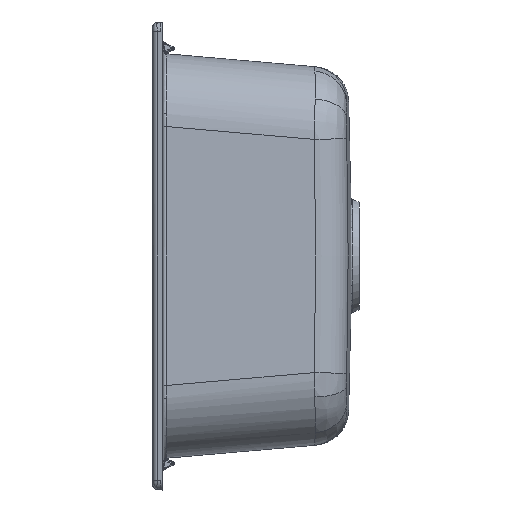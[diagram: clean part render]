
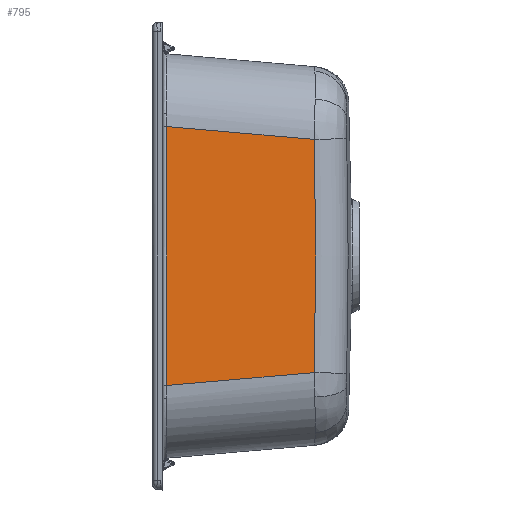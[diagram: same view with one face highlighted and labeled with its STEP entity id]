
A CAD part, left-side view. The second image highlights one B-rep face of the part: STEP entity #795.
In plain terms, the highlighted planar face has unit normal (-0.996, -0.087, 0).
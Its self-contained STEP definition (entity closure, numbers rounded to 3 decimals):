
#795=ADVANCED_FACE('',(#2370),#2371,.T.);
#2370=FACE_OUTER_BOUND('',#15433,.T.);
#2371=PLANE('',#15434);
#15433=EDGE_LOOP('',(#21802,#21803,#21804,#21805,#21806));
#15434=AXIS2_PLACEMENT_3D('',#21807,#21808,#21809);
#21802=ORIENTED_EDGE('',*,*,#24258,.F.);
#21803=ORIENTED_EDGE('',*,*,#24253,.T.);
#21804=ORIENTED_EDGE('',*,*,#24321,.F.);
#21805=ORIENTED_EDGE('',*,*,#24540,.F.);
#21806=ORIENTED_EDGE('',*,*,#24541,.F.);
#21807=CARTESIAN_POINT('',(-546.92,5.303,-208.951));
#21808=DIRECTION('',(-0.996,-0.087,0.0));
#21809=DIRECTION('',(-0.087,0.996,0.0));
#24253=EDGE_CURVE('',#27606,#27603,#27607,.T.);
#24258=EDGE_CURVE('',#27606,#27613,#27614,.T.);
#24321=EDGE_CURVE('',#27713,#27603,#27714,.F.);
#24540=EDGE_CURVE('',#28052,#27713,#28053,.T.);
#24541=EDGE_CURVE('',#27613,#28052,#28054,.T.);
#27603=VERTEX_POINT('',#43137);
#27606=VERTEX_POINT('',#43152);
#27607=LINE('',#43153,#43154);
#27613=VERTEX_POINT('',#43175);
#27614=LINE('',#43176,#43177);
#27713=VERTEX_POINT('',#43574);
#27714=LINE('',#43575,#43576);
#28052=VERTEX_POINT('',#45411);
#28053=B_SPLINE_CURVE_WITH_KNOTS('',5,(#45412,#45413,#45414,#45415,#45416,#45417),.UNSPECIFIED.,.F.,.F.,(6,6),(0.0,176.134),.UNSPECIFIED.);
#28054=B_SPLINE_CURVE_WITH_KNOTS('',5,(#45418,#45419,#45420,#45421,#45422,#45423),.UNSPECIFIED.,.F.,.F.,(6,6),(0.0,176.134),.UNSPECIFIED.);
#43137=CARTESIAN_POINT('',(-546.043,-4.727,-138.34));
#43152=CARTESIAN_POINT('',(-546.043,-4.727,138.34));
#43153=CARTESIAN_POINT('',(-546.043,-4.727,-229.301));
#43154=VECTOR('',#47297,1.0);
#43175=CARTESIAN_POINT('',(-532.237,-162.527,124.534));
#43176=CARTESIAN_POINT('',(-547.446,11.312,139.743));
#43177=VECTOR('',#47301,1.0);
#43574=CARTESIAN_POINT('',(-532.237,-162.527,-124.534));
#43575=CARTESIAN_POINT('',(-547.446,11.312,-139.743));
#43576=VECTOR('',#47350,1.0);
#45411=CARTESIAN_POINT('',(-532.1,-164.093,0.0));
#45412=CARTESIAN_POINT('',(-532.1,-164.093,0.));
#45413=CARTESIAN_POINT('',(-532.1,-164.093,-24.909));
#45414=CARTESIAN_POINT('',(-532.114,-163.937,-49.818));
#45415=CARTESIAN_POINT('',(-532.141,-163.623,-74.728));
#45416=CARTESIAN_POINT('',(-532.182,-163.154,-99.633));
#45417=CARTESIAN_POINT('',(-532.237,-162.527,-124.534));
#45418=CARTESIAN_POINT('',(-532.237,-162.527,124.534));
#45419=CARTESIAN_POINT('',(-532.182,-163.154,99.633));
#45420=CARTESIAN_POINT('',(-532.141,-163.623,74.728));
#45421=CARTESIAN_POINT('',(-532.114,-163.937,49.818));
#45422=CARTESIAN_POINT('',(-532.1,-164.093,24.909));
#45423=CARTESIAN_POINT('',(-532.1,-164.093,0.));
#47297=DIRECTION('',(0.0,0.0,-1.0));
#47301=DIRECTION('',(0.087,-0.992,-0.087));
#47350=DIRECTION('',(0.087,-0.992,0.087));
